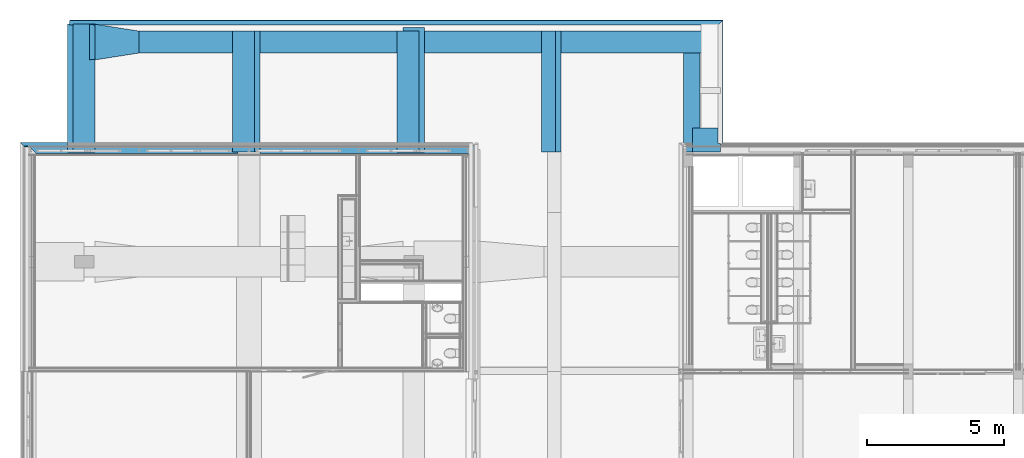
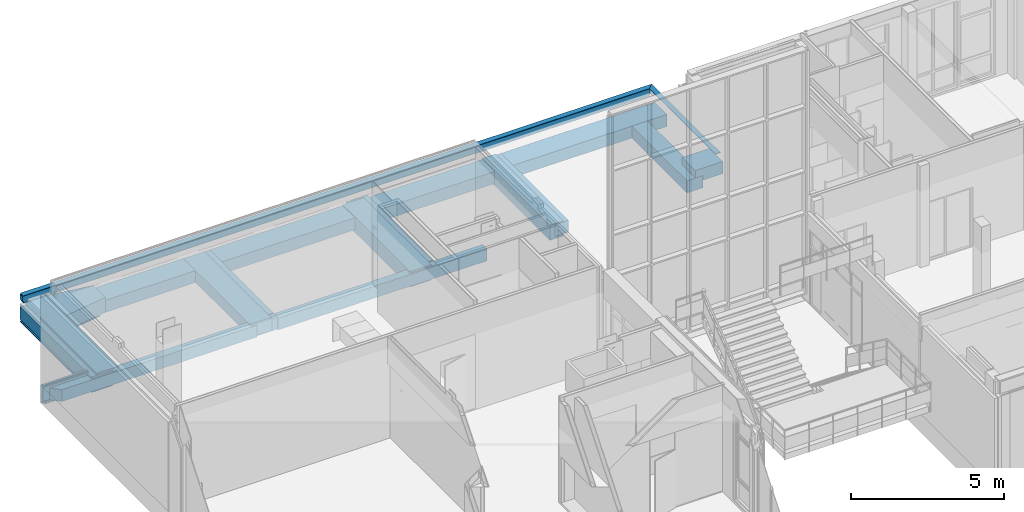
# One storey, part 20 of 94: 18 beams.
"""IFC2X3 building model written with IfcOpenShell, lengths in millimetres."""

from ifc_helpers import new_model, entity, si_unit, converted_unit, derived_unit, money_unit, direction, frame, origin_with_axes, place, context, subcontext, project, spatial, faceted_brep, material, type_object, element, save


model = new_model("IFC2X3")

# Units and contexts
model_context = context("Model", 3, precision=0.01, world=origin_with_axes(), true_north=direction((0.0, 1.0)))
body_context = subcontext(model_context, "Body", "Model", "MODEL_VIEW")
ifc_project = project(units=[si_unit("LENGTHUNIT", "METRE", prefix="MILLI"), si_unit("AREAUNIT", "SQUARE_METRE"), si_unit("VOLUMEUNIT", "CUBIC_METRE"), converted_unit("PLANEANGLEUNIT", "DEGREE", entity("IfcPlaneAngleMeasure", 0.0174532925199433), si_unit("PLANEANGLEUNIT", "RADIAN"), dimensions=[0, 0, 0, 0, 0, 0, 0]), money_unit("EUR"), converted_unit("TIMEUNIT", "Year", entity("IfcTimeMeasure", 31557600.0), si_unit("TIMEUNIT", "SECOND"), dimensions=[0, 0, 1, 0, 0, 0, 0]), si_unit("MASSUNIT", "GRAM", prefix="KILO"), si_unit("THERMODYNAMICTEMPERATUREUNIT", "DEGREE_CELSIUS"), si_unit("LUMINOUSINTENSITYUNIT", "LUMEN"), si_unit("ENERGYUNIT", "JOULE", prefix="MEGA"), derived_unit("THERMALCONDUCTANCEUNIT", [(si_unit("POWERUNIT", "WATT"), 1), (si_unit("LENGTHUNIT", "METRE"), -1), (si_unit("THERMODYNAMICTEMPERATUREUNIT", "KELVIN"), -1)]), derived_unit("SPECIFICHEATCAPACITYUNIT", [(si_unit("ENERGYUNIT", "JOULE"), 1), (si_unit("MASSUNIT", "GRAM", prefix="KILO"), -1), (si_unit("THERMODYNAMICTEMPERATUREUNIT", "KELVIN"), -1)]), derived_unit("MASSDENSITYUNIT", [(si_unit("MASSUNIT", "GRAM", prefix="KILO"), 1), (si_unit("VOLUMEUNIT", "CUBIC_METRE"), -1)])], contexts=[model_context])

# Site, building, storey
site_placement = place(None, origin_with_axes())
site = spatial("IfcSite", under=ifc_project, at=site_placement, Name="<site naam>", CompositionType="ELEMENT")
building_placement = place(site_placement, origin_with_axes())
building = spatial("IfcBuilding", under=site, at=building_placement, Name="<Naam gebouw>", CompositionType="ELEMENT")
storey_placement = place(building_placement, frame((0.0, 0.0, 4250.0), z_axis=(0.0, 0.0, 1.0), x_axis=(1.0, 0.0, 0.0)))
storey = spatial("IfcBuildingStorey", under=building, at=storey_placement, Name="01 1e verdieping", CompositionType="ELEMENT", Elevation=4250.0)

# Beams
ifc_material_1 = material(Name="beton_gewapend_prefab")
beam_type_1 = type_object("IfcBeamType", Name="Betonbanden 160 x 760", PredefinedType="BEAM")
beam_1_placement = place(storey_placement, frame((-10604.07537140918, 20275.00000000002, 19.99999999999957), z_axis=(0.0, 0.0, 1.0), x_axis=(0.0, 1.0, 0.0)))
element("IfcBeam", 1, at=beam_1_placement, inside=storey, type_object=beam_type_1, material=ifc_material_1, Name="41_Balk_Betonbanden", ObjectType="BEAM", context=body_context, shape_type="Brep", body=[
    faceted_brep([(-100.0000071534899, 0.0, -49.99999999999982), (-30.00000000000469, 0.0, -49.99999999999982), (-30.00000000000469, 0.0, -100.0000001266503), (4.298051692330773e-06, 0.0, -100.0000001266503), (4.298051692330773e-06, 0.0, -690.0000385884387), (-29.99999800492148, 0.0, -690.0000385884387), (-29.99999800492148, 0.0, -660.0000280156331), (-60.00000030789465, 0.0, -660.0000280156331), (-60.00000030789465, 0.0, -759.9999375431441), (4.298051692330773e-06, 0.0, -759.9999375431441), (4.298051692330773e-06, 0.0, -730.0000145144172), (29.99999527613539, 0.0, -730.0000145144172), (29.99999527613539, 0.0, -759.9999375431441), (59.99999757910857, 0.0, -759.9999375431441), (59.99999757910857, 0.0, -30.00000230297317), (-60.00000030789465, 0.0, -30.00000230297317), (-60.00000030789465, 0.0, 0.0), (-100.0000071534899, 0.0, 0.0), (-30.00000000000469, 1630.924628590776, -49.99999999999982), (-100.0000071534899, 1560.924621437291, -49.99999999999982), (-30.00000000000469, 1630.924628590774, -100.0000001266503), (4.298055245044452e-06, 1660.924632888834, -100.0000001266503), (4.298055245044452e-06, 1660.924632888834, -690.0000385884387), (-29.99999800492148, 1630.924630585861, -690.0000385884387), (-29.99999800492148, 1630.924630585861, -660.0000280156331), (-60.00000030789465, 1600.924628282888, -660.0000280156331), (-60.00000030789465, 1600.924628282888, -759.9999375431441), (4.298055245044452e-06, 1660.924632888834, -759.9999375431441), (4.298055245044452e-06, 1660.924632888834, -730.0000145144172), (29.99999527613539, 1690.924623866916, -730.0000145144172), (29.99999527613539, 1690.924623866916, -759.9999375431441), (59.99999757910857, 1720.92462616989, -759.9999375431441), (59.99999757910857, 1720.92462616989, -30.00000230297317), (-60.00000030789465, 1600.924628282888, -30.00000230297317), (-60.00000030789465, 1600.924628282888, 0.0), (-100.0000071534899, 1560.924621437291, 0.0)], [[[0, 1, 2, 3, 4, 5, 6, 7, 8, 9, 10, 11, 12, 13, 14, 15, 16, 17]], [[18, 1, 0, 19]], [[20, 2, 1, 18]], [[3, 2, 20, 21]], [[4, 3, 21, 22]], [[5, 4, 22, 23]], [[6, 5, 23, 24]], [[7, 6, 24, 25]], [[8, 7, 25, 26]], [[9, 8, 26, 27]], [[10, 9, 27, 28]], [[11, 10, 28, 29]], [[12, 11, 29, 30]], [[13, 12, 30, 31]], [[14, 13, 31, 32]], [[15, 14, 32, 33]], [[16, 15, 33, 34]], [[17, 16, 34, 35]], [[35, 19, 0, 17]], [[20, 18, 19, 35, 34, 33, 32, 31, 30, 29, 28, 27, 26, 25, 24, 23, 22, 21]]]),
])
ifc_material_2 = material(Name="beton_gewapend C")
beam_type_2 = type_object("IfcBeamType", Name="beton_gewapend C 800 x 620", PredefinedType="BEAM")
beam_2_placement = place(storey_placement, frame((-9999.999999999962, 24650.00000000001, -30.00000000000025), z_axis=(0.0, 0.0, 1.0), x_axis=(-1.0, 0.0, 0.0)))
element("IfcBeam", 2, at=beam_2_placement, inside=storey, type_object=beam_type_2, material=ifc_material_2, Name="28_Balk_beton_gewapend", ObjectType="BEAM", context=body_context, shape_type="Brep", body=[
    faceted_brep([(-400.0000000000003, 4650.000000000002, 0.0), (-400.0000000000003, 4650.000000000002, -620.0000000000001), (-400.0000000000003, 1268.113223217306, -620.0000000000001), (-400.0000000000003, 1268.113223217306, -80.00000000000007), (-400.0000000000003, 31.88677678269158, -80.00000000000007), (-400.0000000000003, 31.88677678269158, -620.0000000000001), (-400.0000000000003, 0.0, -620.0000000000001), (-400.0000000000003, 0.0, 0.0), (399.9999999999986, 4650.000000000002, 0.0), (399.9999999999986, 4650.000000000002, -80.00000000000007), (-195.9246285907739, 4650.000000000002, -80.00000000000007), (-195.9246285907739, 4650.000000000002, -620.0000000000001), (-195.9246285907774, 1299.999999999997, -620.0000000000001), (-195.9246285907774, 1299.999999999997, -80.00000000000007), (400.0000000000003, 0.0, -80.00000000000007), (-195.924628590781, 0.0, -80.00000000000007), (-195.924628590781, 0.0, -620.0000000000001), (400.0000000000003, 0.0, 0.0)], [[[0, 1, 2, 3, 4, 5, 6, 7]], [[0, 8, 9, 10, 11, 1]], [[1, 11, 12, 2]], [[12, 13, 3, 2]], [[9, 14, 15, 4, 3, 13, 10]], [[15, 16, 5, 4]], [[16, 6, 5]], [[7, 6, 16, 15, 14, 17]], [[8, 0, 7, 17]], [[9, 8, 17, 14]], [[11, 10, 13, 12]]]),
])
beam_3_placement = place(storey_placement, frame((-3999.999999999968, 24400.00000000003, -30.00000000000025), z_axis=(0.0, 0.0, 1.0), x_axis=(-1.0, 0.0, 0.0)))
element("IfcBeam", 3, at=beam_3_placement, inside=storey, type_object=beam_type_2, material=ifc_material_2, Name="28_Balk_beton_gewapend", ObjectType="BEAM", context=body_context, shape_type="Brep", body=[
    faceted_brep([(399.9999999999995, 0.0, -120.0000000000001), (399.9999999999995, 4155.000000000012, -120.0000000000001), (-400.0000000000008, 4155.000000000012, -120.0000000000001), (-399.9999999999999, 0.0, -120.0000000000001), (399.9999999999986, 4400.000000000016, -150.0000000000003), (399.9999999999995, 4155.000000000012, -150.0000000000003), (399.9999999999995, 0.0, -620.0000000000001), (399.9999999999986, 4400.000000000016, -620.0000000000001), (-400.0000000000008, 4155.000000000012, -150.0000000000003), (-400.0000000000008, 4400.000000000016, -150.0000000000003), (-400.0000000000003, 4400.000000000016, -620.0000000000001), (-399.9999999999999, 0.0, -620.0000000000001)], [[[0, 1, 2, 3]], [[4, 5, 1, 0, 6, 7]], [[5, 8, 2, 1]], [[2, 8, 9, 10, 11, 3]], [[6, 0, 3, 11]], [[4, 9, 8, 5]], [[6, 11, 10, 7]], [[10, 9, 4, 7]]]),
])
beam_4_placement = place(storey_placement, frame((2000.000000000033, 24525.10610533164, -30.00000000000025), z_axis=(0.0, 0.0, 1.0), x_axis=(-1.0, 0.0, 0.0)))
element("IfcBeam", 4, at=beam_4_placement, inside=storey, type_object=beam_type_2, material=ifc_material_2, Name="28_Balk_beton_gewapend", ObjectType="BEAM", context=body_context, shape_type="Brep", body=[
    faceted_brep([(399.9999999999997, 0.0, -120.0000000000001), (399.9999999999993, 4280.106105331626, -120.0000000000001), (-399.9999999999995, 4280.106105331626, -120.0000000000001), (-399.9999999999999, 0.0, -120.0000000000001), (399.9999999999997, 4525.106105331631, -150.0000000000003), (399.9999999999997, 4280.106105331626, -150.0000000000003), (399.9999999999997, 0.0, -620.0000000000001), (399.9999999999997, 4525.106105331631, -620.0000000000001), (-399.9999999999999, 4280.106105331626, -150.0000000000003), (-399.9999999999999, 4525.106105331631, -150.0000000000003), (-399.9999999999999, 4525.106105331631, -620.0000000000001), (-399.9999999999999, 0.0, -620.0000000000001)], [[[0, 1, 2, 3]], [[4, 5, 1, 0, 6, 7]], [[5, 8, 2, 1]], [[2, 8, 9, 10, 11, 3]], [[6, 0, 3, 11]], [[4, 9, 8, 5]], [[6, 11, 10, 7]], [[10, 9, 4, 7]]]),
])
beam_5_placement = place(storey_placement, frame((-10204.07537140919, 24650.00000000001, -110.0000000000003), z_axis=(0.0, 0.0, 1.0), x_axis=(-1.0, 0.0, 0.0)))
element("IfcBeam", 5, at=beam_5_placement, inside=storey, type_object=beam_type_2, material=ifc_material_2, Name="28_Balk_beton_gewapend", ObjectType="BEAM", context=body_context, shape_type="Brep", body=[
    faceted_brep([(400.0000000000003, 0.0, -620.0000000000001), (400.0000042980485, 0.0, -579.9998877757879), (339.9999996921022, 0.0, -579.9998877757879), (339.9999996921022, 0.0, -479.9999782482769), (370.0000019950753, 0.0, -479.9999782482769), (370.0000019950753, 0.0, -509.9999888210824), (400.0000042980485, 0.0, -509.9999888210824), (400.0000000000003, 0.0, 0.0), (-400.0000000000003, 0.0, 0.0), (-400.0000000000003, 0.0, -620.0000000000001), (400.0000042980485, 4374.999999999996, -549.9999647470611), (400.0000042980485, 4374.999999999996, -579.9998877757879), (399.9999999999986, 4650.000000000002, -620.0000000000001), (399.9999999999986, 4650.000000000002, 0.0), (400.0000042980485, 4374.999999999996, -509.9999888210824), (339.9999996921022, 4374.999999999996, -579.9998877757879), (339.9999996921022, 4374.999999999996, -479.9999782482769), (370.0000019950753, 4374.999999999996, -479.9999782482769), (370.0000019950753, 4374.999999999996, -509.9999888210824), (-400.0000000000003, 4650.000000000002, 0.0), (-400.0000000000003, 4650.000000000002, -620.0000000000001)], [[[0, 1, 2, 3, 4, 5, 6, 7, 8, 9]], [[10, 11, 1, 0, 12, 13, 7, 6, 14]], [[15, 2, 1, 11]], [[16, 3, 2, 15]], [[17, 4, 3, 16]], [[18, 5, 4, 17]], [[14, 6, 5, 18]], [[8, 7, 13, 19]], [[9, 8, 19, 20]], [[0, 9, 20, 12]], [[11, 10, 14, 18, 17, 16, 15]], [[13, 12, 20, 19]]]),
])
beam_6_placement = place(storey_placement, frame((1795.924628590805, 24400.00000000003, -110.0000000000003), z_axis=(0.0, 0.0, 1.0), x_axis=(-1.0, 0.0, 0.0)))
element("IfcBeam", 6, at=beam_6_placement, inside=storey, type_object=beam_type_2, material=ifc_material_2, Name="28_Balk_beton_gewapend", ObjectType="BEAM", context=body_context, shape_type="Brep", body=[
    faceted_brep([(-400.0000000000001, 0.0, -620.0000000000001), (-400.0000000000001, 4400.000000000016, -620.0000000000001), (399.9999999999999, 4400.000000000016, -620.0000000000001), (399.9999999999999, 0.0, -620.0000000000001), (-400.0000000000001, 0.0, 0.0), (-400.0000000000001, 4400.000000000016, 0.0), (399.9999999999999, 4400.000000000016, 0.0), (399.9999999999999, 0.0, 0.0)], [[[0, 1, 2, 3]], [[4, 5, 1, 0]], [[2, 1, 5, 6]], [[3, 2, 6, 7]], [[4, 0, 3, 7]], [[7, 6, 5, 4]]]),
])
beam_type_3 = type_object("IfcBeamType", Name="beton_gewapend C 300 x 470", PredefinedType="BEAM")
beam_7_placement = place(storey_placement, frame((-11894.99999999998, 20095.00000000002, -180.000014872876), z_axis=(0.0, 0.0, 1.0), x_axis=(0.0, -1.0, 0.0)))
element("IfcBeam", 7, at=beam_7_placement, inside=storey, type_object=beam_type_3, material=ifc_material_2, Name="28_Balk_beton_gewapend", ObjectType="BEAM", context=body_context, shape_type="Brep", body=[
    faceted_brep([(149.9999999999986, 150.0000000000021, 0.0), (149.9999999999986, 7495.000000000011, 0.0), (-149.9999999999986, 7495.000000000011, 0.0), (-149.9999999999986, -150.0000000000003, 0.0), (149.9999999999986, 7495.00000000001, -469.9999851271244), (149.9999999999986, 150.0000000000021, -469.9999851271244), (-150.0000011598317, 7495.000000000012, -469.9999851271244), (-150.0000019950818, -150.0000000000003, -460.0000131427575), (-150.0000019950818, 1290.924628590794, -469.9999851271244), (-150.0000019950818, 1290.924628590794, -460.0000131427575), (-119.9999996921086, -119.9999996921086, -469.9999851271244), (-119.9999996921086, -119.9999996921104, -460.0000131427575), (-119.9999996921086, 1290.924628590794, -469.9999851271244), (-119.9999996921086, 1290.924628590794, -460.0000131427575)], [[[0, 1, 2, 3]], [[4, 1, 0, 5]], [[1, 4, 6, 2]], [[7, 3, 2, 6, 8, 9]], [[10, 5, 0, 3, 7, 11]], [[12, 8, 6, 4, 5, 10]], [[13, 9, 8, 12]], [[11, 7, 9, 13]], [[13, 12, 10, 11]]]),
    faceted_brep([(-150.0000000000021, 13495.00000000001, 0.0), (-150.0000003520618, 13495.00000000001, -469.9999851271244), (-150.0000010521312, 8295.000000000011, -469.9999851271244), (-149.9999999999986, 8295.000000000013, 0.0), (95.00000000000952, 13495.00000000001, 0.0), (95.00000000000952, 13495.00000000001, -469.9999851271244), (149.9999999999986, 16110.04446784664, -469.9999851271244), (149.9999999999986, 8295.00000000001, -469.9999851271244), (95.00000000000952, 14295.00000000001, -469.9999851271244), (-150.0000002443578, 14295.00000000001, -469.9999851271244), (-150.0000000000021, 16110.04446784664, -469.9999851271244), (149.9999999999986, 8295.000000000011, 0.0), (149.9999999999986, 16160.00000000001, 0.0), (-150.0000000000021, 16160.00000000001, 0.0), (-150.0000000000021, 14295.00000000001, 0.0), (95.00000000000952, 14295.00000000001, 0.0), (149.9999999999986, 16140.04447014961, -460.0000131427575), (149.9999999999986, 16140.04447014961, -469.9999851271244), (149.9999999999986, 16160.00000000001, -469.9999851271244), (149.9999999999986, 16110.04446784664, -460.0000131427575), (-150.0000000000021, 16140.04447014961, -460.0000131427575), (-150.0000000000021, 16110.04446784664, -460.0000131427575), (-150.0000000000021, 16160.00000000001, -469.9999851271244), (-150.0000000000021, 16140.04447014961, -469.9999851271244)], [[[0, 1, 2, 3]], [[0, 4, 5, 1]], [[6, 7, 2, 1, 5, 8, 9, 10]], [[7, 11, 3, 2]], [[4, 0, 3, 11, 12, 13, 14, 15]], [[15, 8, 5, 4]], [[16, 17, 18, 12, 11, 7, 6, 19]], [[14, 9, 8, 15]], [[20, 21, 10, 9, 14, 13, 22, 23]], [[19, 6, 10, 21]], [[13, 12, 18, 22]], [[17, 16, 20, 23]], [[22, 18, 17, 23]], [[16, 19, 21, 20]]]),
])
beam_type_4 = type_object("IfcBeamType", Name="beton_gewapend C 1300 x 600", PredefinedType="BEAM")
beam_8_placement = place(storey_placement, frame((-7999.999999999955, 24000.00000000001, -30.00000000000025), z_axis=(0.0, 0.0, 1.0), x_axis=(0.0, 1.0, 0.0)))
element("IfcBeam", 8, at=beam_8_placement, inside=storey, type_object=beam_type_4, material=ifc_material_2, Name="28_Balk_beton_gewapend", ObjectType="BEAM", context=body_context, shape_type="Brep", body=[
    faceted_brep([(399.9999999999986, 0.0, 0.0), (-399.9999999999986, 0.0, 0.0), (-399.9999999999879, 0.0, -120.0000239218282), (400.0000000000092, 0.0, -120.0000239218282), (649.9999999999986, 1600.000000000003, 0.0), (-649.9999999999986, 1600.000000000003, 0.0), (-649.9999999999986, 1600.000000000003, -600.0000000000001), (-399.9999999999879, 0.0, -600.0000000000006), (-399.9999999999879, 204.0753714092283, -120.0000253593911), (400.0000000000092, 204.0753714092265, -120.0000253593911), (400.0000000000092, 0.0, -600.0000000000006), (649.9999999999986, 1600.000000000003, -600.0000000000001), (618.113223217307, 1600.000000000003, -600.0000000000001), (618.113223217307, 1600.000000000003, -80.00000000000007), (-618.113223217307, 1600.000000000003, -80.00000000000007), (-618.113223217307, 1600.000000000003, -600.0000000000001), (-399.9999999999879, 204.0753714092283, -600.0000000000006), (-399.9999999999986, 204.0753714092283, -80.00000000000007), (399.9999999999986, 204.0753714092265, -80.00000000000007), (400.0000000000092, 204.0753714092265, -600.0000000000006)], [[[0, 1, 2, 3]], [[1, 0, 4, 5]], [[5, 6, 7, 2, 1]], [[8, 9, 3, 2]], [[4, 0, 3, 10, 11]], [[11, 12, 13, 14, 15, 6, 5, 4]], [[6, 15, 16, 7]], [[16, 8, 2, 7]], [[17, 18, 9, 8]], [[9, 19, 10, 3]], [[12, 11, 10, 19]], [[13, 12, 19, 9, 18]], [[13, 18, 17, 14]], [[14, 17, 8, 16, 15]]]),
])
beam_9_placement = place(storey_placement, frame((-8204.075371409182, 24000.00000000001, -110.0000000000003), z_axis=(0.0, 0.0, 1.0), x_axis=(0.0, 1.0, 0.0)))
element("IfcBeam", 9, at=beam_9_placement, inside=storey, type_object=beam_type_4, material=ifc_material_2, Name="28_Balk_beton_gewapend", ObjectType="BEAM", context=body_context, shape_type="Brep", body=[
    faceted_brep([(-649.9999999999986, 1600.000000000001, 0.0), (649.9999999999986, 1600.000000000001, 0.0), (649.9999999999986, 1600.000000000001, -600.0000000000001), (-649.9999999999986, 1600.000000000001, -600.0000000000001), (-399.9999999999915, 1600.000000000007, -40.00003663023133), (-399.9999999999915, 1600.000000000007, -520.0000000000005), (400.0000000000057, 1600.00000000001, -520.0000000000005), (400.0000000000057, 1600.00000000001, -40.00003663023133), (-399.9999999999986, 0.0, 0.0), (399.9999999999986, 0.0, 0.0), (400.0000000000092, 0.0, -520.0000000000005), (399.9999999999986, 0.0, -600.0000000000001), (400.0000000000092, 0.0, -40.00002535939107), (-399.9999999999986, 0.0, -600.0000000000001), (-399.9999999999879, 0.0, -40.00002535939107), (-399.9999999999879, 0.0, -520.0000000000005)], [[[0, 1, 2, 3], [4, 5, 6, 7]], [[1, 0, 8, 9]], [[10, 11, 2, 1, 9, 12]], [[3, 2, 11, 13]], [[14, 8, 0, 3, 13, 15]], [[4, 14, 15, 5]], [[5, 15, 10, 6]], [[6, 10, 12, 7]], [[7, 12, 14, 4]], [[8, 14, 12, 9]], [[11, 10, 15, 13]]]),
])
beam_type_5 = type_object("IfcBeamType", Name="beton_gewapend C 500 x 600", PredefinedType="BEAM")
beam_10_placement = place(storey_placement, frame((7112.500000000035, 24400.00000000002, -30.00000000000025), z_axis=(0.0, 0.0, 1.0), x_axis=(-1.0, 0.0, 0.0)))
element("IfcBeam", 10, at=beam_10_placement, inside=storey, type_object=beam_type_5, material=ifc_material_2, Name="28_Balk_beton_gewapend", ObjectType="BEAM", context=body_context, shape_type="Brep", body=[
    faceted_brep([(250.0, 0.0, -600.0000000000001), (250.0, 0.0, -120.0000000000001), (-250.0, 0.0, -120.0000000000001), (-250.0, 0.0, -600.0000000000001), (249.9999999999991, 4400.000000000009, -600.0000000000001), (249.9999999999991, 4400.000000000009, -120.0000000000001), (-250.0000000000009, 4400.000000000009, -120.0000000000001), (-250.0000000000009, 4400.000000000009, -600.0000000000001)], [[[0, 1, 2, 3]], [[4, 5, 1, 0]], [[5, 6, 2, 1]], [[3, 2, 6, 7]], [[0, 3, 7, 4]], [[7, 6, 5, 4]]]),
])
beam_11_placement = place(storey_placement, frame((6908.424628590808, 24400.00000000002, -110.0000000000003), z_axis=(0.0, 0.0, 1.0), x_axis=(-1.0, 0.0, 0.0)))
element("IfcBeam", 11, at=beam_11_placement, inside=storey, type_object=beam_type_5, material=ifc_material_2, Name="28_Balk_beton_gewapend", ObjectType="BEAM", context=body_context, shape_type="Brep", body=[
    faceted_brep([(-250.0, 0.0, -600.0000000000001), (-250.0000000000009, 4400.000000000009, -600.0000000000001), (249.9999999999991, 4400.000000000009, -600.0000000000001), (250.0, 0.0, -600.0000000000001), (-250.0, 0.0, 0.0), (-250.0000000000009, 4400.000000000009, 0.0), (249.9999999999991, 4400.000000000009, 0.0), (250.0, 0.0, 0.0)], [[[0, 1, 2, 3]], [[4, 5, 1, 0]], [[2, 1, 5, 6]], [[3, 2, 6, 7]], [[4, 0, 3, 7]], [[7, 6, 5, 4]]]),
])
beam_type_6 = type_object("IfcBeamType", Name="beton_gewapend C 800 x 480", PredefinedType="BEAM")
beam_12_placement = place(storey_placement, frame((-10605.23269474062, 24000.00000000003, -150.0000422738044), z_axis=(0.0, 0.0, 1.0), x_axis=(0.0, -1.0, 0.0)))
element("IfcBeam", 12, at=beam_12_placement, inside=storey, type_object=beam_type_6, material=ifc_material_2, Name="28_Balk_beton_gewapend", ObjectType="BEAM", context=body_context, shape_type="Brep", body=[
    faceted_brep([(-400.0000000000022, 23755.23270970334, 0.0), (-400.0000000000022, 23755.23270970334, -479.9999577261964), (-399.9999999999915, 17763.65732333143, -479.9999577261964), (-399.9999999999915, 17763.65732333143, 0.0), (399.9999999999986, 23755.23270970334, 0.0), (399.9999999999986, 23755.23270970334, -479.9999577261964), (400.0000000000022, 17763.65732333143, -479.9999577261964), (400.0000000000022, 17763.65732333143, 0.0)], [[[0, 1, 2, 3]], [[0, 4, 5, 1]], [[1, 5, 6, 2]], [[2, 6, 7, 3]], [[4, 0, 3, 7]], [[5, 4, 7, 6]]]),
    faceted_brep([(-399.9999999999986, 6001.157323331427, -479.999957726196), (-399.9999999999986, 801.1573233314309, -479.9999577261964), (-399.9999999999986, 801.1573233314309, 5.643572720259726e-06), (-399.9999999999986, 6001.157323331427, 4.227380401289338e-05), (399.9999999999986, 6001.157323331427, -479.999957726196), (399.9999999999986, 801.1573233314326, -479.9999577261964), (399.9999999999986, 801.1573233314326, 5.643572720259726e-06), (400.0000000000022, 6001.157323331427, 4.227380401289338e-05)], [[[0, 1, 2, 3]], [[4, 5, 1, 0]], [[5, 6, 2, 1]], [[3, 2, 6, 7]], [[7, 4, 0, 3]], [[7, 6, 5, 4]]]),
    faceted_brep([(-399.9999999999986, 12001.15732333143, -479.9999577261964), (-399.9999999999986, 6801.157323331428, -479.999957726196), (-399.9999999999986, 6801.157323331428, 4.227380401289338e-05), (-399.9999999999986, 12001.15732333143, 0.0), (399.9999999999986, 12001.15732333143, -479.9999577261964), (399.9999999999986, 6801.157323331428, -479.999957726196), (399.9999999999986, 6801.157323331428, 4.227380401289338e-05), (399.9999999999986, 12001.15732333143, 0.0)], [[[0, 1, 2, 3]], [[4, 5, 1, 0]], [[5, 6, 2, 1]], [[3, 2, 6, 7]], [[7, 4, 0, 3]], [[7, 6, 5, 4]]]),
    faceted_brep([(-399.9999999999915, 17263.65732333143, -479.9999577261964), (-399.9999999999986, 12801.15732333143, -479.9999577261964), (-399.9999999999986, 12801.15732333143, 0.0), (-399.9999999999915, 17263.65732333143, 0.0), (400.0000000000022, 17263.65732333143, -479.9999577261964), (399.9999999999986, 12801.15732333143, -479.9999577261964), (399.9999999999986, 12801.15732333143, 0.0), (400.0000000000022, 17263.65732333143, 0.0)], [[[0, 1, 2, 3]], [[4, 5, 1, 0]], [[5, 6, 2, 1]], [[3, 2, 6, 7]], [[7, 4, 0, 3]], [[7, 6, 5, 4]]]),
])
beam_13_placement = place(storey_placement, frame((-4204.075371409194, 24400.00000000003, -150.0000000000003), z_axis=(0.0, 0.0, 1.0), x_axis=(-1.0, 0.0, 0.0)))
element("IfcBeam", 13, at=beam_13_placement, inside=storey, type_object=beam_type_6, material=ifc_material_2, Name="28_Balk_beton_gewapend", ObjectType="BEAM", context=body_context, shape_type="Brep", body=[
    faceted_brep([(-399.9999999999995, 0.0, -480.0), (-399.9999999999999, 4400.000000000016, -480.0), (399.9999999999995, 4400.000000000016, -480.0), (400.0000000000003, 0.0, -480.0), (-399.9999999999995, 0.0, 0.0), (-399.9999999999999, 4400.000000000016, 0.0), (399.9999999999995, 4400.000000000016, 0.0), (400.0000000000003, 0.0, 0.0)], [[[0, 1, 2, 3]], [[4, 5, 1, 0]], [[2, 1, 5, 6]], [[3, 2, 6, 7]], [[4, 0, 3, 7]], [[7, 6, 5, 4]]]),
])
beam_type_7 = type_object("IfcBeamType", Name="beton_gewapend C 870 x 480", PredefinedType="BEAM")
beam_14_placement = place(storey_placement, frame((12145.92462859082, 19999.99999999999, 150.0000000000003), z_axis=(0.0, 0.0, 1.0), x_axis=(0.0, -1.0, 0.0)))
element("IfcBeam", 14, at=beam_14_placement, inside=storey, type_object=beam_type_7, material=ifc_material_2, Name="28_Balk_beton_gewapend", ObjectType="BEAM", context=body_context, shape_type="Brep", body=[
    faceted_brep([(-870.000000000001, 1029.084145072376, -300.0000000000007), (-324.9999975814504, 1029.084145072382, -300.0000000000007), (-324.9999975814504, 1029.084145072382, -150.0000000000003), (-870.000000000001, 1029.084145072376, -150.0000000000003), (-870.000000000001, 1029.075371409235, 0.0), (0.0, 1029.075371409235, 0.0), (0.0, 1029.075371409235, -480.0), (-870.000000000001, 1029.075371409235, -480.0), (-324.9999975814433, 304.0753843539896, -300.0000000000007), (-870.000000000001, 304.0753843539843, -300.0000000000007), (-324.9999975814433, 304.0753843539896, -150.0000000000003), (-870.000000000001, 304.0753843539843, -150.0000000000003), (-870.000000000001, 279.075384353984, -480.0), (-870.000000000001, 279.075384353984, -299.999724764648), (-870.000000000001, 0.0, -299.999724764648), (-870.000000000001, 0.0, 0.0), (0.0, 0.0, 0.0), (0.0, 0.0, -299.999724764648), (0.0, 279.0753843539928, -299.999724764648), (0.0, 279.0753843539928, -480.0)], [[[0, 1, 2, 3, 4, 5, 6, 7]], [[8, 1, 0, 9]], [[10, 2, 1, 8]], [[10, 11, 3, 2]], [[11, 9, 0, 7, 12, 13, 14, 15, 4, 3]], [[4, 15, 16, 5]], [[16, 17, 18, 19, 6, 5]], [[7, 6, 19, 12]], [[8, 9, 11, 10]], [[19, 18, 13, 12]], [[18, 17, 14, 13]], [[16, 15, 14, 17]]]),
])
beam_type_8 = type_object("IfcBeamType", Name="beton_gewapend C 600 x 480", PredefinedType="BEAM")
beam_15_placement = place(storey_placement, frame((12124.99999977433, 24000.00000000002, -149.9997247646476), z_axis=(0.0, 0.0, 1.0), x_axis=(-1.0, 0.0, 0.0)))
element("IfcBeam", 15, at=beam_15_placement, inside=storey, type_object=beam_type_8, material=ifc_material_2, Name="28_Balk_beton_gewapend", ObjectType="BEAM", context=body_context, shape_type="Brep", body=[
    faceted_brep([(-300.0000131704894, 4000.000000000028, -480.0002752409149), (-300.0000131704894, 399.9999999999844, -480.0002752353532), (-300.0000131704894, 399.9999999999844, -0.0003175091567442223), (-300.0000131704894, 4000.000000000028, 0.0), (300.0000131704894, 4000.000000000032, -480.0002752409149), (300.0000131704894, 399.9999999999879, -480.0002752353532), (300.0000131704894, 399.9999999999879, -0.0003175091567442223), (300.0000131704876, 4000.000000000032, 0.0)], [[[0, 1, 2, 3]], [[4, 5, 1, 0]], [[5, 6, 2, 1]], [[3, 2, 6, 7]], [[3, 7, 4, 0]], [[7, 6, 5, 4]]]),
])
ifc_material_3 = material(Name="ALG - BUITENAFWERKING")
beam_type_9 = type_object("IfcBeamType", Name="ALG - BUITENAFWERKING 190 x 18", PredefinedType="BEAM")
beam_16_placement = place(storey_placement, frame((-10506.68088587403, 24612.75384799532, 275.9954706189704), z_axis=(0.0, 0.0, 1.0), x_axis=(0.0, -1.0, 0.0)))
element("IfcBeam", 16, at=beam_16_placement, inside=storey, type_object=beam_type_9, material=ifc_material_3, Name="47_Balk_ALG", ObjectType="BEAM", context=body_context, shape_type="Brep", body=[
    faceted_brep([(0.0, 0.0, 0.0), (-190.2524295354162, 0.0, 0.0), (-190.2524295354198, 23769.6306753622, 0.0), (0.0, 23579.38231423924, 0.0), (0.0, 0.0, 18.00221576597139), (-190.2524295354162, 0.0, 18.00221576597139), (-190.2524295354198, 23769.6306753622, 18.00221576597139), (0.0, 23579.38231423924, 18.00221576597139)], [[[0, 1, 2, 3]], [[4, 5, 1, 0]], [[1, 5, 6, 2]], [[7, 3, 2, 6]], [[4, 0, 3, 7]], [[5, 4, 7, 6]]]),
])
beam_17_placement = place(storey_placement, frame((13072.70142836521, 24612.75384799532, 276.901462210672), z_axis=(0.0, 0.0, 1.0), x_axis=(-1.0, 0.0, 0.0)))
element("IfcBeam", 17, at=beam_17_placement, inside=storey, type_object=beam_type_9, material=ifc_material_3, Name="47_Balk_ALG", ObjectType="BEAM", context=body_context, shape_type="Brep", body=[
    faceted_brep([(0.0, 4297.927220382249, 0.0), (0.0, 0.0, 0.0), (-190.2483611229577, -190.2524295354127, 0.0), (-190.2483611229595, 4297.927220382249, 0.0), (0.0, 4297.927220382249, 17.99994318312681), (0.0, 0.0, 17.99994318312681), (-190.2483611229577, -190.2524295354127, 17.99994318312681), (-190.2483611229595, 4297.927220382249, 17.99994318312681)], [[[0, 1, 2, 3]], [[4, 5, 1, 0]], [[1, 5, 6, 2]], [[3, 2, 6, 7]], [[7, 4, 0, 3]], [[7, 6, 5, 4]]]),
])
beam_type_10 = type_object("IfcBeamType", Name="ALG - BUITENAFWERKING 167 x 276", PredefinedType="BEAM")
beam_18_placement = place(storey_placement, frame((-10531.86849317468, 24614.99587507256, 1.541814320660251e-05), z_axis=(0.0, 0.0, 1.0), x_axis=(0.0, -1.0, 0.0)))
element("IfcBeam", 18, at=beam_18_placement, inside=storey, type_object=beam_type_10, material=ifc_material_3, Name="47_Balk_ALG", ObjectType="BEAM", context=body_context, shape_type="Brep", body=[
    faceted_brep([(-150.0041177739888, 23756.80921658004, 70.00003434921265), (-150.0041177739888, 23756.80865514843, 0.0), (-150.004117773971, 27.79312891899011, 0.0), (-150.004117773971, 27.79312891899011, 70.00003434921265), (-167.0092881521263, 23773.81438695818, 274.0654507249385), (-167.0095688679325, 23773.81410624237, 275.9957207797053), (0.0, 23606.80453737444, 275.9957207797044), (0.0, 23606.80453737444, 0.0), (-167.009361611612, 23773.8143134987, 70.00003434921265), (-167.0092881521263, 23773.81438695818, 94.81069569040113), (-164.9947853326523, 23771.79988413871, 95.16590689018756), (-164.9947853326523, 23771.79988413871, 110.5656296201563), (-166.1947853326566, 23772.99988413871, 110.5656296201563), (-166.1947853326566, 23772.99988413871, 96.17282644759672), (-167.0092881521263, 23773.81438695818, 96.02920762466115), (-167.0092881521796, 23773.81438695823, 262.8702116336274), (-166.9947853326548, 23773.79988413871, 262.8720829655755), (-166.9947853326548, 23773.79988413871, 274.0654507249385), (0.0, 27.79312891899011, 0.0), (0.0, 27.79312891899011, 70.00003434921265), (0.0, 0.0, 70.00003434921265), (-167.0095688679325, 0.0, 70.00003434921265), (-167.0095688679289, 19.5990115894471, 274.0654507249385), (-167.0095688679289, 19.5990115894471, 264.1686765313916), (-167.0095688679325, 0.0, 261.6397721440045), (-167.0095688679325, 0.0, 275.9957207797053), (0.0, 0.0, 275.9957207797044), (0.0, 0.0, 91.14582601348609), (0.0, 0.0, 261.6397721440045), (0.0, 19.5990115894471, 264.1686765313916), (0.0, 19.5990115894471, 274.0654507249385), (0.0, 20.79901158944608, 274.0654507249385), (0.0, 20.79901158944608, 262.8720829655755), (0.0, 0.0, 260.1883389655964), (0.0, 0.0, 92.36433794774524), (0.0, 21.59901158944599, 96.17282644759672), (0.0, 21.59901158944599, 110.5656296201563), (0.0, 22.79901158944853, 110.5656296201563), (0.0, 22.79901158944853, 95.16590689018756), (-167.0095688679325, 0.0, 91.14582601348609), (-167.0095688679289, 20.78422805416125, 94.81064619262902), (-164.9947853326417, 22.7990115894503, 95.16590689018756), (-164.9947853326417, 22.7990115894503, 110.5656296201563), (-166.1947853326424, 21.59901158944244, 110.5656296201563), (-166.1947853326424, 21.59901158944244, 96.17282644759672), (-167.0095688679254, 20.78422805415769, 96.02915812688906), (-167.0095688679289, 20.78422805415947, 262.8701754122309), (-167.0095688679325, 0.0, 92.36433794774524), (-167.0095688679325, 0.0, 260.1883389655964), (-166.9947853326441, 20.79901158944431, 262.8720829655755), (-166.9947853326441, 20.79901158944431, 274.0654507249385)], [[[0, 1, 2, 3]], [[4, 5, 6, 7, 1, 0, 8, 9, 10, 11, 12, 13, 14, 15, 16, 17]], [[1, 7, 18, 2]], [[18, 19, 3, 2]], [[8, 0, 3, 19, 20, 21]], [[4, 22, 23, 24, 25, 5]], [[6, 5, 25, 26]], [[27, 20, 19, 18, 7, 6, 26, 28, 29, 30, 31, 32, 33, 34, 35, 36, 37, 38]], [[9, 8, 21, 39, 40]], [[40, 41, 10, 9]], [[41, 42, 11, 10]], [[43, 12, 11, 42, 37, 36]], [[43, 44, 13, 12]], [[13, 44, 45, 14]], [[46, 15, 14, 45, 47, 48]], [[46, 49, 16, 15]], [[49, 50, 17, 16]], [[4, 17, 50, 31, 30, 22]], [[27, 39, 21, 20]], [[22, 30, 29, 23]], [[23, 29, 28, 24]], [[28, 26, 25, 24]], [[32, 31, 50, 49]], [[32, 49, 46, 48, 33]], [[48, 47, 34, 33]], [[47, 45, 44, 35, 34]], [[36, 35, 44, 43]], [[38, 37, 42, 41]], [[38, 41, 40, 39, 27]]]),
])

save(model, "model.ifc")
